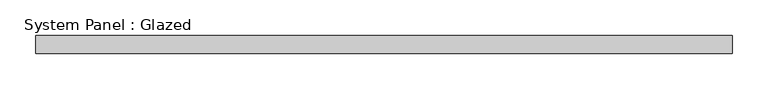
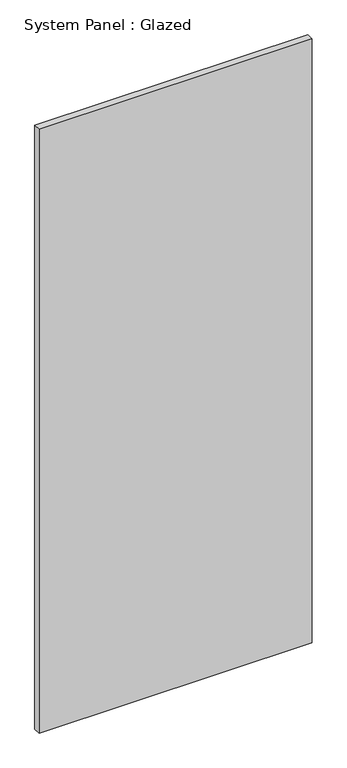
"""IFC4 building model written with IfcOpenShell, lengths in millimetres: plate geometry, System Panel : Glazed."""

from ifc_helpers import new_model, si_unit, origin, origin_with_axes, place, context, project, spatial, polyline, outline, extrude, source, transform, mapped, element, save


def system_panel_glazed_3b5c56f7(model_context):
    return source(origin(), model_context, "Body", "SweptSolid", [
        extrude(outline(polyline([(486.4076693, -44.45), (-486.4076693, -44.45), (-486.4076693, -19.05), (486.4076693, -19.05), (486.4076693, -44.45)])), origin_with_axes(), (0.0, 0.0, 1.0), 2273.046),
    ])


if __name__ == "__main__":
    model = new_model("IFC4")
    model_context = context("Model", 3, world=origin())
    ifc_project = project(units=[si_unit("LENGTHUNIT", "METRE", prefix="MILLI")], contexts=[model_context])
    site = spatial("IfcSite", under=ifc_project)
    building = spatial("IfcBuilding", under=site)
    placement = place(None, origin())
    system_panel_glazed_shape = system_panel_glazed_3b5c56f7(model_context)
    element("IfcPlate", 1, ObjectType="System Panel : Glazed", at=placement, inside=building, context=model_context, shape_type="MappedRepresentation", body=[
        mapped(system_panel_glazed_shape, transform((0.0, 0.0, 0.0), x_axis=(1.0, 0.0, 0.0), y_axis=(0.0, 1.0, 0.0), z_axis=(0.0, 0.0, 1.0))),
    ])
    save(model, "model.ifc")
